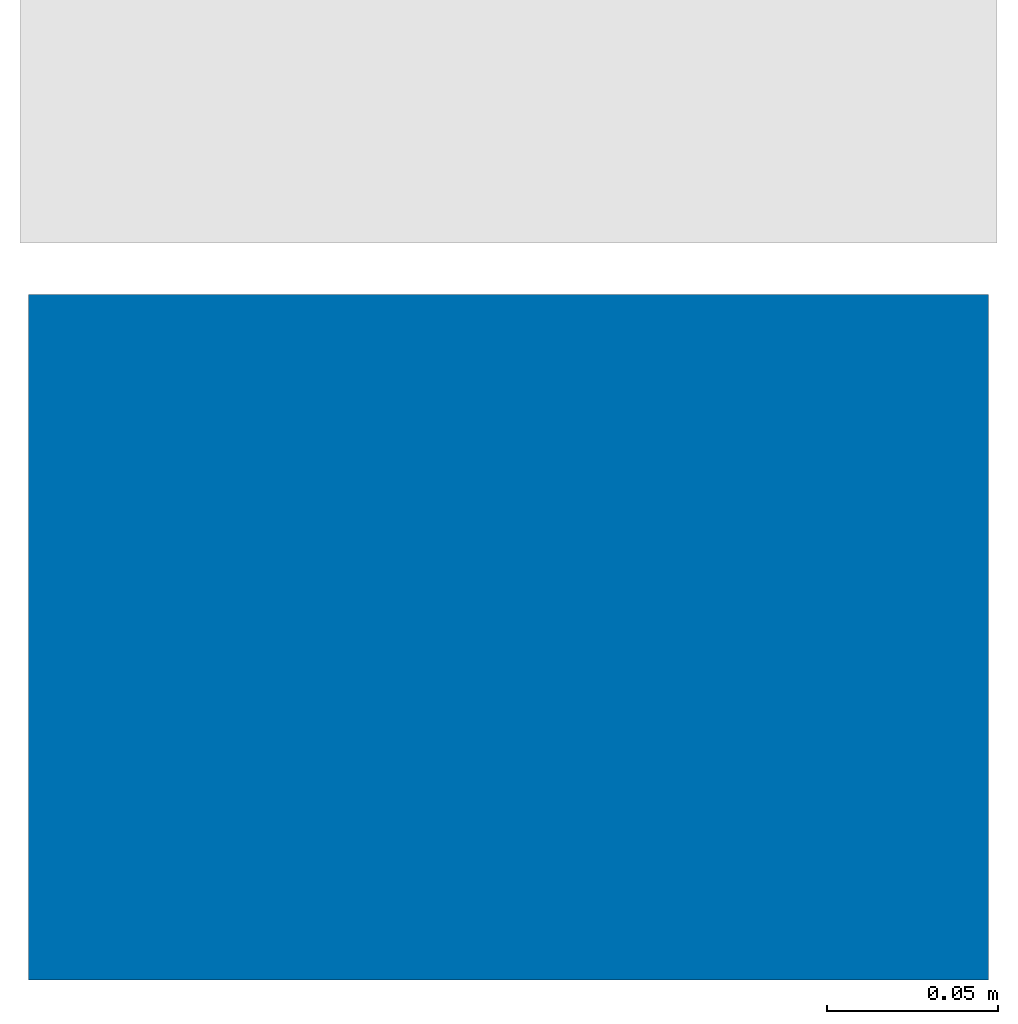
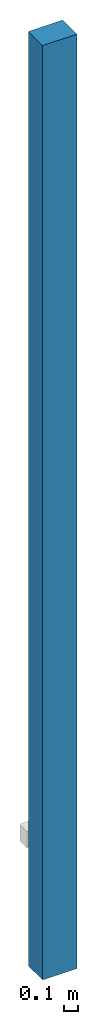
# One storey, part 1 of 2: 1 wall.
"""IFC2X3 building model written with IfcOpenShell, lengths in millimetres."""

from ifc_helpers import new_model, entity, si_unit, converted_unit, derived_unit, direction, frame, frame_2d, origin, place, context, subcontext, project, spatial, rectangle, extrude, material, layer, layer_set, layer_usage, type_object, element, save


model = new_model("IFC2X3")

# Units and contexts
model_context = context("Model", 3, precision=0.01, world=origin(), true_north=direction((6.12303176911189e-17, 1.0)))
context_of_model = context(None, 3, precision=0.01, world=origin(), true_north=direction((6.12303176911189e-17, 1.0)))
body_context = subcontext(model_context, "Body", "Model", "MODEL_VIEW")
ifc_project = project(units=[si_unit("LENGTHUNIT", "METRE", prefix="MILLI"), si_unit("AREAUNIT", "SQUARE_METRE"), si_unit("VOLUMEUNIT", "CUBIC_METRE"), converted_unit("PLANEANGLEUNIT", "DEGREE", entity("IfcRatioMeasure", 0.0174532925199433), si_unit("PLANEANGLEUNIT", "RADIAN"), dimensions=[0, 0, 0, 0, 0, 0, 0]), si_unit("MASSUNIT", "GRAM", prefix="KILO"), si_unit("TIMEUNIT", "SECOND"), si_unit("FREQUENCYUNIT", "HERTZ"), si_unit("THERMODYNAMICTEMPERATUREUNIT", "DEGREE_CELSIUS"), derived_unit("THERMALTRANSMITTANCEUNIT", [(si_unit("MASSUNIT", "GRAM", prefix="KILO"), 1), (si_unit("THERMODYNAMICTEMPERATUREUNIT", "KELVIN"), -1), (si_unit("TIMEUNIT", "SECOND"), -3)]), derived_unit("VOLUMETRICFLOWRATEUNIT", [(si_unit("LENGTHUNIT", "METRE"), 3), (si_unit("TIMEUNIT", "SECOND"), -1)]), si_unit("ELECTRICCURRENTUNIT", "AMPERE"), si_unit("ELECTRICVOLTAGEUNIT", "VOLT"), si_unit("POWERUNIT", "WATT"), si_unit("FORCEUNIT", "NEWTON", prefix="KILO"), si_unit("ILLUMINANCEUNIT", "LUX"), si_unit("LUMINOUSFLUXUNIT", "LUMEN"), si_unit("LUMINOUSINTENSITYUNIT", "CANDELA"), si_unit("PRESSUREUNIT", "PASCAL")], contexts=[model_context, context_of_model])

# Site, building, storey
site_placement = place(None, origin())
site = spatial("IfcSite", under=ifc_project, at=site_placement, Name="Default", CompositionType="ELEMENT")
building_placement = place(site_placement, origin())
building = spatial("IfcBuilding", under=site, at=building_placement, CompositionType="ELEMENT")
storey_placement = place(building_placement, origin())
storey = spatial("IfcBuildingStorey", under=building, at=storey_placement, Name="Level 1", CompositionType="ELEMENT", Elevation=0.0)

# Wall
ifc_material = material(Name="Default Wall")
ifc_layer = layer(ifc_material, 200.0)
ifc_layer_set = layer_set([ifc_layer], Name="Basic Wall:Generic - 200mm")
ifc_layer_usage = layer_usage(ifc_layer_set, "AXIS2", "NEGATIVE", 100.0)
wall_type = type_object("IfcWallType", Name="Basic Wall:Generic - 200mm", PredefinedType="STANDARD", material=ifc_layer_set)
wall_placement = place(storey_placement, frame((152.904248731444, -214.424309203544, 0.0)))
element("IfcWallStandardCase", 1, at=wall_placement, inside=storey, type_object=wall_type, material=ifc_layer_usage, Name="Basic Wall:Generic - 200mm", ObjectType="Basic Wall:Generic - 200mm:249", context=body_context, shape_type="SweptSolid", body=[
    extrude(rectangle(XDim=280.0, YDim=200.0, at=frame_2d((140.0, 1.4210854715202e-14), x_axis=(-1.0, 0.0))), origin(), (0.0, 0.0, 1.0), 8000.0),
])

save(model, "model.ifc")
